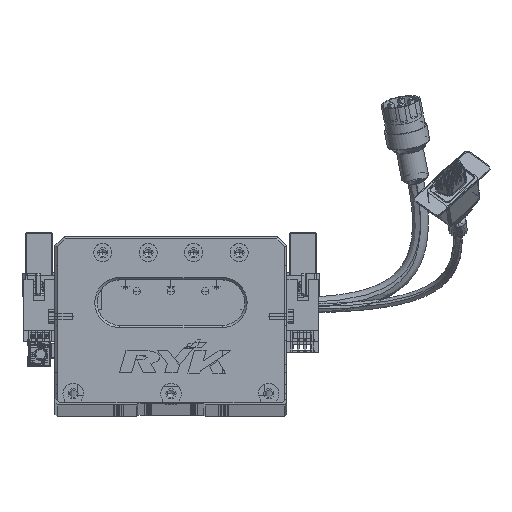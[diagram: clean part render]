
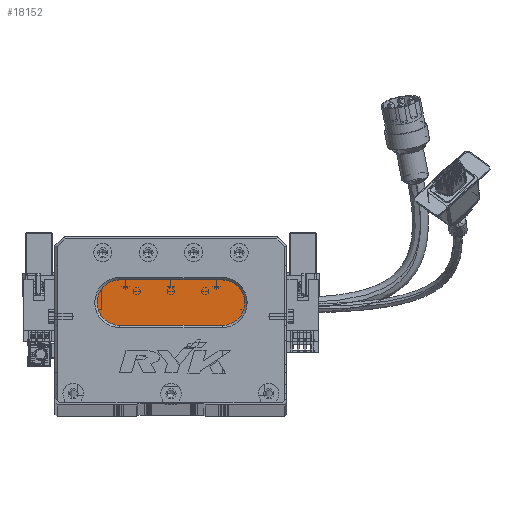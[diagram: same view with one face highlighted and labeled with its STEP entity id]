
A CAD part, top view. The second image highlights one B-rep face of the part: STEP entity #18152.
In plain terms, the highlighted planar face has unit normal (0, 0, 1) as drawn and (0, 0, -1) by its records, which use the part's own axes.
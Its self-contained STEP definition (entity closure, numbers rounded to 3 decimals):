
#3367 = LINE ( 'NONE', #21075, #38028 ) ;
#8881 = VERTEX_POINT ( 'NONE', #21440 ) ;
#9890 = CARTESIAN_POINT ( 'NONE',  ( 73.5, 54., 13. ) ) ;
#10604 = EDGE_CURVE ( 'NONE', #44941, #8881, #42238, .T. ) ;
#12320 = DIRECTION ( 'NONE',  ( 0., 0., -1. ) ) ;
#15867 = ORIENTED_EDGE ( 'NONE', *, *, #75697, .T. ) ;
#18152 = ADVANCED_FACE ( 'NONE', ( #52261 ), #73668, .T. ) ;
#20590 = VERTEX_POINT ( 'NONE', #22754 ) ;
#21075 = CARTESIAN_POINT ( 'NONE',  ( 73.5, 54., 13. ) ) ;
#21411 = DIRECTION ( 'NONE',  ( 0., 0., -1. ) ) ;
#21428 = CARTESIAN_POINT ( 'NONE',  ( 28.5, 54., 13. ) ) ;
#21440 = CARTESIAN_POINT ( 'NONE',  ( 73.5, 34., 13. ) ) ;
#21978 = DIRECTION ( 'NONE',  ( 1., 0., 0. ) ) ;
#22634 = EDGE_LOOP ( 'NONE', ( #44213, #15867, #47470, #46497, #37504 ) ) ;
#22754 = CARTESIAN_POINT ( 'NONE',  ( 18.5, 44., 13. ) ) ;
#24190 = AXIS2_PLACEMENT_3D ( 'NONE', #56840, #21411, #29521 ) ;
#24625 = DIRECTION ( 'NONE',  ( -1., 0., 0. ) ) ;
#24904 = EDGE_CURVE ( 'NONE', #35243, #44941, #3367, .T. ) ;
#25376 = DIRECTION ( 'NONE',  ( -1., 0., 0. ) ) ;
#28435 = DIRECTION ( 'NONE',  ( -1., 0., 0. ) ) ;
#29521 = DIRECTION ( 'NONE',  ( -1., 0., 0. ) ) ;
#34113 = CARTESIAN_POINT ( 'NONE',  ( 28.5, 44., 13. ) ) ;
#35243 = VERTEX_POINT ( 'NONE', #21428 ) ;
#37504 = ORIENTED_EDGE ( 'NONE', *, *, #24904, .T. ) ;
#38028 = VECTOR ( 'NONE', #21978, 1000. ) ;
#38045 = AXIS2_PLACEMENT_3D ( 'NONE', #66716, #80959, #24625 ) ;
#38809 = AXIS2_PLACEMENT_3D ( 'NONE', #34113, #12320, #82558 ) ;
#42238 = CIRCLE ( 'NONE', #24190, 10. ) ;
#44213 = ORIENTED_EDGE ( 'NONE', *, *, #10604, .T. ) ;
#44941 = VERTEX_POINT ( 'NONE', #9890 ) ;
#46497 = ORIENTED_EDGE ( 'NONE', *, *, #52919, .T. ) ;
#47470 = ORIENTED_EDGE ( 'NONE', *, *, #72936, .T. ) ;
#49380 = CIRCLE ( 'NONE', #38809, 10. ) ;
#52261 = FACE_OUTER_BOUND ( 'NONE', #22634, .T. ) ;
#52919 = EDGE_CURVE ( 'NONE', #20590, #35243, #49380, .T. ) ;
#53064 = AXIS2_PLACEMENT_3D ( 'NONE', #65946, #74110, #25376 ) ;
#56455 = CARTESIAN_POINT ( 'NONE',  ( 28.5, 34., 13. ) ) ;
#56840 = CARTESIAN_POINT ( 'NONE',  ( 73.5, 44., 13. ) ) ;
#57276 = VECTOR ( 'NONE', #28435, 1000. ) ;
#63200 = CIRCLE ( 'NONE', #53064, 10. ) ;
#65790 = VERTEX_POINT ( 'NONE', #56455 ) ;
#65946 = CARTESIAN_POINT ( 'NONE',  ( 28.5, 44., 13. ) ) ;
#66716 = CARTESIAN_POINT ( 'NONE',  ( 73.5, 44., 13. ) ) ;
#72936 = EDGE_CURVE ( 'NONE', #65790, #20590, #63200, .T. ) ;
#73668 = PLANE ( 'NONE',  #38045 ) ;
#74110 = DIRECTION ( 'NONE',  ( 0., 0., -1. ) ) ;
#75697 = EDGE_CURVE ( 'NONE', #8881, #65790, #88628, .T. ) ;
#80959 = DIRECTION ( 'NONE',  ( 0., 0., -1. ) ) ;
#82558 = DIRECTION ( 'NONE',  ( -1., 0., 0. ) ) ;
#84454 = CARTESIAN_POINT ( 'NONE',  ( 73.5, 34., 13. ) ) ;
#88628 = LINE ( 'NONE', #84454, #57276 ) ;
